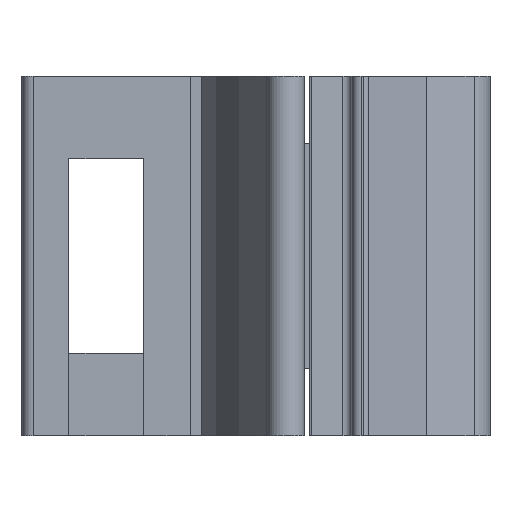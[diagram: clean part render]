
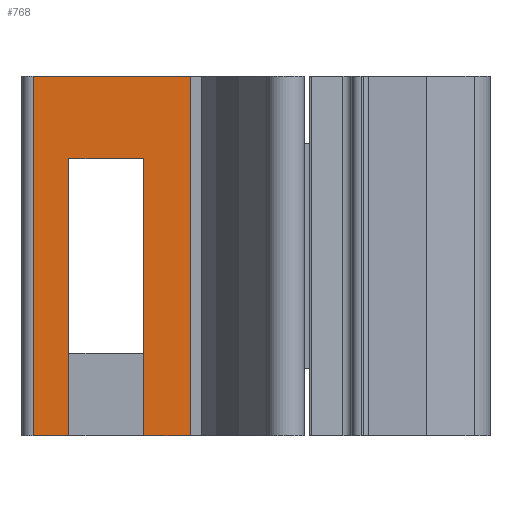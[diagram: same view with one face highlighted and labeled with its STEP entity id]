
A CAD part, left-side view. The second image highlights one B-rep face of the part: STEP entity #768.
In plain terms, the highlighted planar face has unit normal (-1, 0, 0).
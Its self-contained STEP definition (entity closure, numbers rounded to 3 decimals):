
#251=CARTESIAN_POINT('',(-4.8,-1.25,-9.6));
#252=VERTEX_POINT('',#251);
#259=CARTESIAN_POINT('',(-4.8,-0.3,-9.6));
#260=VERTEX_POINT('',#259);
#261=CARTESIAN_POINT('',(-4.8,-0.3,-9.6));
#262=DIRECTION('',(0.0,-1.0,0.0));
#263=VECTOR('',#262,0.95);
#264=LINE('',#261,#263);
#265=EDGE_CURVE('',#260,#252,#264,.T.);
#579=CARTESIAN_POINT('',(-4.8,-4.5,-9.6));
#580=VERTEX_POINT('',#579);
#587=CARTESIAN_POINT('',(-4.8,-3.246,-9.6));
#588=VERTEX_POINT('',#587);
#589=CARTESIAN_POINT('',(-4.8,-3.246,-9.6));
#590=DIRECTION('',(0.0,-1.0,0.0));
#591=VECTOR('',#590,1.254);
#592=LINE('',#589,#591);
#593=EDGE_CURVE('',#588,#580,#592,.T.);
#683=CARTESIAN_POINT('',(-4.8,-3.25,-7.4));
#684=VERTEX_POINT('',#683);
#691=CARTESIAN_POINT('',(-4.8,-3.246,-7.4));
#692=VERTEX_POINT('',#691);
#699=CARTESIAN_POINT('',(-4.8,-3.25,-7.4));
#700=DIRECTION('',(0.,1.0,0.0));
#701=VECTOR('',#700,0.004);
#702=LINE('',#699,#701);
#703=EDGE_CURVE('',#684,#692,#702,.T.);
#708=CARTESIAN_POINT('',(-4.8,-0.3,-9.6));
#709=DIRECTION('',(-1.0,0.0,0.0));
#710=DIRECTION('',(0.0,0.0,1.0));
#711=AXIS2_PLACEMENT_3D('',#708,#709,#710);
#712=PLANE('',#711);
#713=ORIENTED_EDGE('',*,*,#265,.T.);
#714=CARTESIAN_POINT('',(-4.8,-1.25,-2.2));
#715=VERTEX_POINT('',#714);
#716=CARTESIAN_POINT('',(-4.8,-1.25,-9.6));
#717=DIRECTION('',(0.0,0.,1.0));
#718=VECTOR('',#717,7.4);
#719=LINE('',#716,#718);
#720=EDGE_CURVE('',#252,#715,#719,.T.);
#721=ORIENTED_EDGE('',*,*,#720,.T.);
#722=CARTESIAN_POINT('',(-4.8,-3.25,-2.2));
#723=VERTEX_POINT('',#722);
#724=CARTESIAN_POINT('',(-4.8,-1.25,-2.2));
#725=DIRECTION('',(0.0,-1.0,0.0));
#726=VECTOR('',#725,2.);
#727=LINE('',#724,#726);
#728=EDGE_CURVE('',#715,#723,#727,.T.);
#729=ORIENTED_EDGE('',*,*,#728,.T.);
#730=CARTESIAN_POINT('',(-4.8,-3.25,-2.2));
#731=DIRECTION('',(0.0,0.0,-1.0));
#732=VECTOR('',#731,5.2);
#733=LINE('',#730,#732);
#734=EDGE_CURVE('',#723,#684,#733,.T.);
#735=ORIENTED_EDGE('',*,*,#734,.T.);
#736=ORIENTED_EDGE('',*,*,#703,.T.);
#737=CARTESIAN_POINT('',(-4.8,-3.246,-7.4));
#738=DIRECTION('',(0.0,0.0,-1.0));
#739=VECTOR('',#738,2.2);
#740=LINE('',#737,#739);
#741=EDGE_CURVE('',#692,#588,#740,.T.);
#742=ORIENTED_EDGE('',*,*,#741,.T.);
#743=ORIENTED_EDGE('',*,*,#593,.T.);
#744=CARTESIAN_POINT('',(-4.8,-4.5,0.0));
#745=VERTEX_POINT('',#744);
#746=CARTESIAN_POINT('',(-4.8,-4.5,-9.6));
#747=DIRECTION('',(0.0,0.0,1.0));
#748=VECTOR('',#747,9.6);
#749=LINE('',#746,#748);
#750=EDGE_CURVE('',#580,#745,#749,.T.);
#751=ORIENTED_EDGE('',*,*,#750,.T.);
#752=CARTESIAN_POINT('',(-4.8,-0.3,0.0));
#753=VERTEX_POINT('',#752);
#754=CARTESIAN_POINT('',(-4.8,-0.3,0.0));
#755=DIRECTION('',(0.0,-1.0,0.0));
#756=VECTOR('',#755,4.2);
#757=LINE('',#754,#756);
#758=EDGE_CURVE('',#753,#745,#757,.T.);
#759=ORIENTED_EDGE('',*,*,#758,.F.);
#760=CARTESIAN_POINT('',(-4.8,-0.3,-9.6));
#761=DIRECTION('',(0.0,0.0,1.0));
#762=VECTOR('',#761,9.6);
#763=LINE('',#760,#762);
#764=EDGE_CURVE('',#260,#753,#763,.T.);
#765=ORIENTED_EDGE('',*,*,#764,.F.);
#766=EDGE_LOOP('',(#713,#721,#729,#735,#736,#742,#743,#751,#759,#765));
#767=FACE_OUTER_BOUND('',#766,.T.);
#768=ADVANCED_FACE('',(#767),#712,.T.);
